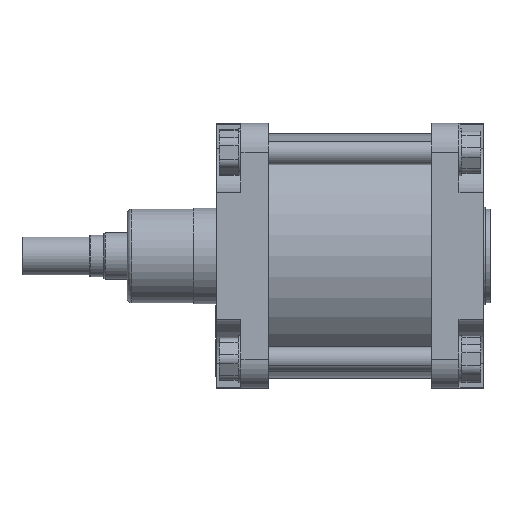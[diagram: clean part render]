
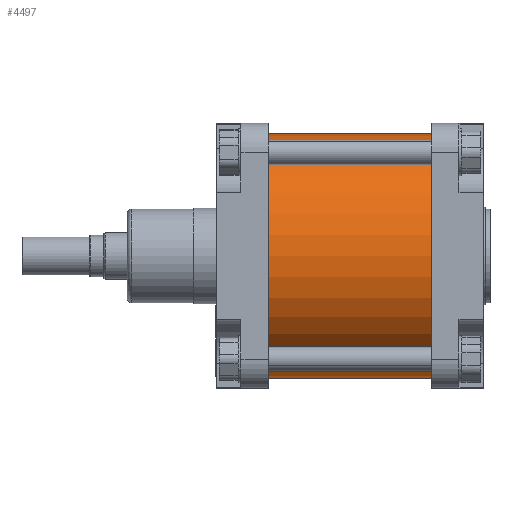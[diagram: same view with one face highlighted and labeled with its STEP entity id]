
A CAD part, top view. The second image highlights one B-rep face of the part: STEP entity #4497.
In plain terms, the highlighted cylindrical face has radius 130 mm (diameter 260 mm), a partial arc.
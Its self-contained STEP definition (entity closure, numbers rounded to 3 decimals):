
#2427=CARTESIAN_POINT('Vertex',(-50.,-130.,0.)) ;
#2429=CARTESIAN_POINT('Vertex',(-50.,130.,0.)) ;
#2432=CARTESIAN_POINT('Axis2P3D Location',(-50.,0.,0.)) ;
#4467=CARTESIAN_POINT('Axis2P3D Location',(37.,0.,0.)) ;
#4472=CARTESIAN_POINT('Line Origine',(37.,130.,0.)) ;
#4476=CARTESIAN_POINT('Vertex',(124.,130.,0.)) ;
#4479=CARTESIAN_POINT('Line Origine',(37.,-130.,0.)) ;
#4483=CARTESIAN_POINT('Vertex',(124.,-130.,0.)) ;
#4486=CARTESIAN_POINT('Axis2P3D Location',(124.,0.,0.)) ;
#2433=DIRECTION('Axis2P3D Direction',(-1.,0.,0.)) ;
#4468=DIRECTION('Axis2P3D Direction',(1.,-0.,0.)) ;
#4469=DIRECTION('Axis2P3D XDirection',(0.,1.,0.)) ;
#4473=DIRECTION('Vector Direction',(1.,0.,0.)) ;
#4480=DIRECTION('Vector Direction',(1.,0.,0.)) ;
#4487=DIRECTION('Axis2P3D Direction',(1.,-0.,0.)) ;
#2434=AXIS2_PLACEMENT_3D('Circle Axis2P3D',#2432,#2433,$) ;
#4470=AXIS2_PLACEMENT_3D('Cylinder Axis2P3D',#4467,#4468,#4469) ;
#4488=AXIS2_PLACEMENT_3D('Circle Axis2P3D',#4486,#4487,$) ;
#4492=ORIENTED_EDGE('',*,*,#4478,.F.) ;
#4493=ORIENTED_EDGE('',*,*,#2436,.T.) ;
#4494=ORIENTED_EDGE('',*,*,#4485,.T.) ;
#4495=ORIENTED_EDGE('',*,*,#4490,.F.) ;
#4474=VECTOR('Line Direction',#4473,1.) ;
#4481=VECTOR('Line Direction',#4480,1.) ;
#4497=ADVANCED_FACE('PartBody',(#4496),#4471,.T.) ;
#2435=CIRCLE('generated circle',#2434,130.) ;
#4489=CIRCLE('generated circle',#4488,130.) ;
#4471=CYLINDRICAL_SURFACE('generated cylinder',#4470,130.) ;
#2436=EDGE_CURVE('',#2430,#2428,#2435,.F.) ;
#4478=EDGE_CURVE('',#2430,#4477,#4475,.T.) ;
#4485=EDGE_CURVE('',#2428,#4484,#4482,.T.) ;
#4490=EDGE_CURVE('',#4477,#4484,#4489,.T.) ;
#4491=EDGE_LOOP('',(#4492,#4493,#4494,#4495)) ;
#4496=FACE_OUTER_BOUND('',#4491,.T.) ;
#4475=LINE('Line',#4472,#4474) ;
#4482=LINE('Line',#4479,#4481) ;
#2428=VERTEX_POINT('',#2427) ;
#2430=VERTEX_POINT('',#2429) ;
#4477=VERTEX_POINT('',#4476) ;
#4484=VERTEX_POINT('',#4483) ;
